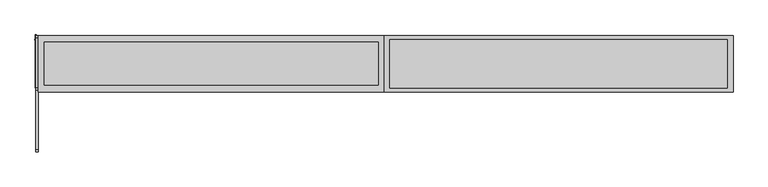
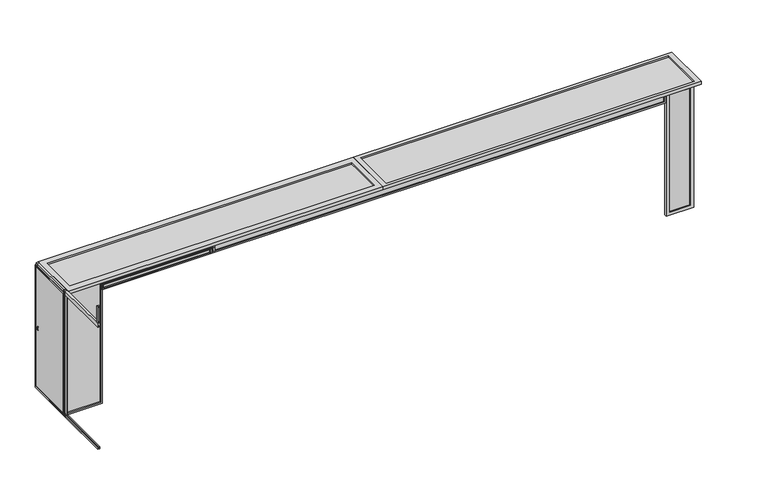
"""IFC4 building model written with IfcOpenShell, lengths in millimetres: beam geometry, Inside Partition Config-6 : Inside Partition Config-6."""

from ifc_helpers import new_model, si_unit, frame, origin, place, context, project, spatial, polyline, outline, extrude, source, transform, mapped, element, save


def beam_f1e470be(model_context):
    return source(origin(), model_context, "Body", "SweptSolid", [
        extrude(outline(polyline([(916.0, -347.5), (-898.0, -347.5), (-898.0, -328.5), (916.0, -328.5), (916.0, -347.5)])), frame((0.0, 0.0, 2515.0), z_axis=(0.0, 0.0, 1.0), x_axis=(1.0, 0.0, 0.0)), (0.0, 0.0, 1.0), 64.0),
        extrude(outline(polyline([(2591.0, 941.0), (2591.0, -923.0), (2503.0, -923.0), (2503.0, 941.0), (2591.0, 941.0)]), holes=[polyline([(2579.0, 916.0), (2515.0, 916.0), (2515.0, -898.0), (2579.0, -898.0), (2579.0, 916.0)])]), frame((0.0, -366.5, 0.0), z_axis=(0.0, 1.0, 0.0), x_axis=(0.0, 0.0, 1.0)), (0.0, 0.0, 1.0), 38.0),
        extrude(outline(polyline([(-948.0, -348.0), (-1498.0, -348.0), (-1498.0, -329.0), (-948.0, -329.0), (-948.0, -348.0)])), frame((0.0, 0.0, 449.0), z_axis=(0.0, 0.0, 1.0), x_axis=(1.0, 0.0, 0.0)), (0.0, 0.0, 1.0), 2108.0),
        extrude(outline(polyline([(2582.0, -923.0), (2582.0, -1523.0), (424.0, -1523.0), (424.0, -923.0), (2582.0, -923.0)]), holes=[polyline([(2557.0, -948.0), (449.0, -948.0), (449.0, -1498.0), (2557.0, -1498.0), (2557.0, -948.0)])]), frame((0.0, -367.0, 0.0), z_axis=(0.0, 1.0, 0.0), x_axis=(0.0, 0.0, 1.0)), (0.0, 0.0, 1.0), 38.0),
        extrude(outline(polyline([(916.0, -347.5), (-898.0, -347.5), (-898.0, -328.5), (916.0, -328.5), (916.0, -347.5)])), frame((0.0, 0.0, 2431.52006), z_axis=(0.0, 0.0, 1.0), x_axis=(1.0, 0.0, 0.0)), (0.0, 0.0, 1.0), 54.9598799),
        extrude(outline(polyline([(2503.0, 941.0), (2503.0, -923.0), (2415.0, -923.0), (2415.0, 941.0), (2503.0, 941.0)]), holes=[polyline([(2486.47994, 916.0), (2431.52006, 916.0), (2431.52006, -898.0), (2486.47994, -898.0), (2486.47994, 916.0)])]), frame((0.0, -366.5, 0.0), z_axis=(0.0, 1.0, 0.0), x_axis=(0.0, 0.0, 1.0)), (0.0, 0.0, 1.0), 38.0),
        extrude(outline(polyline([(1540.2462614, -1572.5499185), (1544.0, -1564.5), (1546.2067558, -1564.5), (1541.5204019, -1574.5499185), (1491.4795981, -1574.5499185), (1486.7932442, -1564.5), (1489.0, -1564.5), (1492.7537386, -1572.5499185), (1540.2462614, -1572.5499185)])), frame((0.0, 356.0, 0.0), z_axis=(0.0, 1.0, 0.0), x_axis=(0.0, 0.0, 1.0)), (0.0, 0.0, 1.0), 20.0),
        extrude(outline(polyline([(-1564.5, -358.0), (-1564.5, 430.0), (-1555.5, 430.0), (-1555.5, -358.0), (-1564.5, -358.0)])), frame((0.0, 0.0, 468.0), z_axis=(0.0, 0.0, 1.0), x_axis=(1.0, 0.0, 0.0)), (0.0, 0.0, 1.0), 2097.0),
        extrude(outline(polyline([(-366.5, 2592.0), (438.5, 2592.0), (438.5, 441.0), (-366.5, 441.0), (-366.5, 2592.0)]), holes=[polyline([(-358.0, 2565.0), (-358.0, 468.0), (430.0, 468.0), (430.0, 2565.0), (-358.0, 2565.0)])]), frame((-1569.0, 0.0, 0.0), z_axis=(1.0, 0.0, 0.0), x_axis=(0.0, 1.0, 0.0)), (0.0, 0.0, 1.0), 18.0),
        extrude(outline(polyline([(3615.2001933, 325.5), (3615.2001933, -325.5), (-1436.1003563, -325.5), (-1436.1003563, 325.5), (3615.2001933, 325.5)])), frame((0.0, 0.0, 2582.0), z_axis=(0.0, 0.0, 1.0), x_axis=(1.0, 0.0, 0.0)), (0.0, 0.0, 1.0), 25.0),
        extrude(outline(polyline([(3702.5499185, 425.5), (3702.5499185, -425.5), (-1523.4500815, -425.5), (-1523.4500815, 425.5), (3702.5499185, 425.5)]), holes=[polyline([(3615.2001933, 325.5), (-1436.1003563, 325.5), (-1436.1003563, -325.5), (3615.2001933, -325.5), (3615.2001933, 325.5)])]), frame((0.0, 0.0, 2582.0), z_axis=(0.0, 0.0, 1.0), x_axis=(1.0, 0.0, 0.0)), (0.0, 0.0, 1.0), 50.0),
        extrude(outline(polyline([(8403.4415073, -347.5), (899.6740287, -347.5), (899.6740287, -328.5), (8403.4415073, -328.5), (8403.4415073, -347.5)])), frame((0.0, 0.0, 2440.0), z_axis=(0.0, 0.0, 1.0), x_axis=(1.0, 0.0, 0.0)), (0.0, 0.0, 1.0), 117.0),
        extrude(outline(polyline([(2582.0, 8434.057768), (2582.0, 869.057768), (2415.0, 869.057768), (2415.0, 8434.057768), (2582.0, 8434.057768)]), holes=[polyline([(2557.0, 8403.4415073), (2440.0, 8403.4415073), (2440.0, 899.6740287), (2557.0, 899.6740287), (2557.0, 8403.4415073)])]), frame((0.0, -366.5, 0.0), z_axis=(0.0, 1.0, 0.0), x_axis=(0.0, 0.0, 1.0)), (0.0, 0.0, 1.0), 38.0),
        extrude(outline(polyline([(8898.5543324, 367.5), (8898.5543324, -367.5), (3789.5455046, -367.5), (3789.5455046, 367.5), (8898.5543324, 367.5)])), frame((0.0, 0.0, 2582.0), z_axis=(0.0, 0.0, 1.0), x_axis=(1.0, 0.0, 0.0)), (0.0, 0.0, 1.0), 25.0),
        extrude(outline(polyline([(8985.5499185, 425.5), (8985.5499185, -425.5), (3702.5499185, -425.5), (3702.5499185, 425.5), (8985.5499185, 425.5)]), holes=[polyline([(8898.5543324, 367.5), (3789.5455046, 367.5), (3789.5455046, -367.5), (8898.5543324, -367.5), (8898.5543324, 367.5)])]), frame((0.0, 0.0, 2582.0), z_axis=(0.0, 0.0, 1.0), x_axis=(1.0, 0.0, 0.0)), (0.0, 0.0, 1.0), 50.0),
        extrude(outline(polyline([(8837.0700118, -348.0), (8492.0455242, -348.0), (8492.0455242, -329.0), (8837.0700118, -329.0), (8837.0700118, -348.0)])), frame((0.0, 0.0, 474.0), z_axis=(0.0, 0.0, 1.0), x_axis=(1.0, 0.0, 0.0)), (0.0, 0.0, 1.0), 2058.0),
        extrude(outline(polyline([(2582.0, 8895.057768), (2582.0, 8434.057768), (424.0, 8434.057768), (424.0, 8895.057768), (2582.0, 8895.057768)]), holes=[polyline([(2532.0, 8837.0700118), (474.0, 8837.0700118), (474.0, 8492.0455242), (2532.0, 8492.0455242), (2532.0, 8837.0700118)])]), frame((0.0, -367.0, 0.0), z_axis=(0.0, 1.0, 0.0), x_axis=(0.0, 0.0, 1.0)), (0.0, 0.0, 1.0), 38.0),
        extrude(outline(polyline([(2632.0, -1523.0), (2632.0, -1561.0), (424.0, -1561.0), (424.0, -1523.0), (2632.0, -1523.0)]), holes=[polyline([(2597.0, -1533.0), (439.0, -1533.0), (439.0, -1551.0), (2597.0, -1551.0), (2597.0, -1533.0)])]), frame((0.0, 397.0, 0.0), z_axis=(0.0, 1.0, 0.0), x_axis=(0.0, 0.0, 1.0)), (0.0, 0.0, 1.0), 29.0),
        extrude(outline(polyline([(2632.0, -1523.0), (2632.0, -1561.0), (424.0, -1561.0), (424.0, -1523.0), (2632.0, -1523.0)]), holes=[polyline([(2602.0, -1533.0), (439.0, -1533.0), (439.0, -1551.0), (2602.0, -1551.0), (2602.0, -1533.0)])]), frame((0.0, -399.8064842, 0.0), z_axis=(0.0, 1.0, 0.0), x_axis=(0.0, 0.0, 1.0)), (0.0, 0.0, 1.0), 33.3064842),
        extrude(outline(polyline([(2925.0, -1523.0), (2925.0, -1561.0), (2632.0, -1561.0), (2632.0, -1523.0), (2925.0, -1523.0)]), holes=[polyline([(2907.8411847, -1552.0), (2907.8411847, -1532.0), (2648.6054969, -1532.0), (2648.6054969, -1552.0), (2907.8411847, -1552.0)])]), frame((0.0, -1338.5, 0.0), z_axis=(0.0, 1.0, 0.0), x_axis=(0.0, 0.0, 1.0)), (0.0, 0.0, 1.0), 29.5840554),
        extrude(outline(polyline([(454.0, -1561.0), (424.0, -1561.0), (424.0, -1523.0), (454.0, -1523.0), (454.0, -1532.0), (440.875, -1532.0), (440.875, -1552.0), (454.0, -1552.0), (454.0, -1561.0)])), frame((0.0, -1338.5, 0.0), z_axis=(0.0, 1.0, 0.0), x_axis=(0.0, 0.0, 1.0)), (0.0, 0.0, 1.0), 913.0),
        extrude(outline(polyline([(2565.0, -1561.0), (2565.0, -1552.0), (2593.0, -1552.0), (2593.0, -1532.0), (2565.0, -1532.0), (2565.0, -1523.0), (2632.0, -1523.0), (2632.0, -1561.0), (2565.0, -1561.0)])), frame((0.0, -1338.5, 0.0), z_axis=(0.0, 1.0, 0.0), x_axis=(0.0, 0.0, 1.0)), (0.0, 0.0, 1.0), 938.6935158),
        extrude(outline(polyline([(454.0, -1561.0), (424.0, -1561.0), (424.0, -1523.0), (454.0, -1523.0), (454.0, -1532.0), (440.875, -1532.0), (440.875, -1552.0), (454.0, -1552.0), (454.0, -1561.0)])), frame((0.0, -366.5, 0.0), z_axis=(0.0, 1.0, 0.0), x_axis=(0.0, 0.0, 1.0)), (0.0, 0.0, 1.0), 763.5),
        extrude(outline(polyline([(2565.0, -1561.0), (2565.0, -1552.0), (2593.0, -1552.0), (2593.0, -1532.0), (2565.0, -1532.0), (2565.0, -1523.0), (2632.0, -1523.0), (2632.0, -1561.0), (2565.0, -1561.0)])), frame((0.0, -366.5, 0.0), z_axis=(0.0, 1.0, 0.0), x_axis=(0.0, 0.0, 1.0)), (0.0, 0.0, 1.0), 763.5),
    ])


if __name__ == "__main__":
    model = new_model("IFC4")
    model_context = context("Model", 3, world=origin())
    ifc_project = project(units=[si_unit("LENGTHUNIT", "METRE", prefix="MILLI")], contexts=[model_context])
    site = spatial("IfcSite", under=ifc_project)
    building = spatial("IfcBuilding", under=site)
    placement = place(None, origin())
    beam_shape = beam_f1e470be(model_context)
    element("IfcBeam", 1, ObjectType="Inside Partition Config-6 : Inside Partition Config-6", at=placement, inside=building, context=model_context, shape_type="MappedRepresentation", body=[
        mapped(beam_shape, transform((0.0, 0.0, 0.0), x_axis=(1.0, 0.0, 0.0), y_axis=(0.0, 1.0, 0.0), z_axis=(0.0, 0.0, 1.0))),
    ])
    save(model, "model.ifc")
